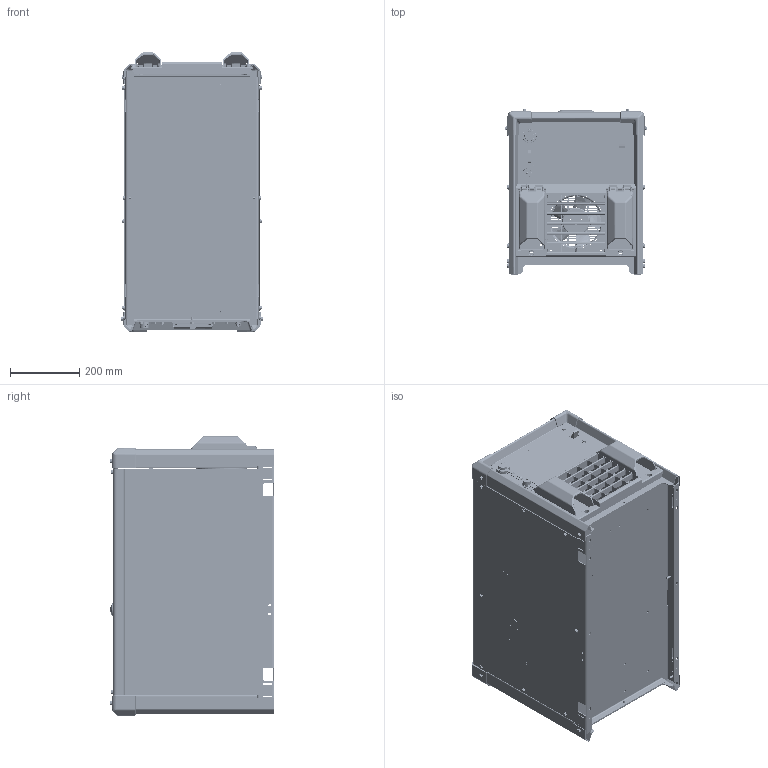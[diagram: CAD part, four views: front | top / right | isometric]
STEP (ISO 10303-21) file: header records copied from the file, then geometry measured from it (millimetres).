
FILE_DESCRIPTION (( 'STEP AP203' ), '1' );
FILE_NAME ('907863 Shell.STEP', '2024-08-13T14:41:44', ( '' ), ( '' ), 'SwSTEP 2.0', 'SolidWorks 2022', '' );
FILE_SCHEMA (( 'CONFIG_CONTROL_DESIGN' ));
Products named in the file (1): 907863 Shell
Bounding box: 407.82 x 476.65 x 807.44 mm (x, y, z)
Surface area: 3624640.3 mm2 (no closed solid volume)
Topology: 0 solids, 301 shells, 3840 faces, 16297 edges, 12129 vertices
Faces by surface type: plane 1974, cylinder 1375, bspline 247, cone 125, torus 99, sphere 20
Entity records: 187839 total; most frequent: CARTESIAN_POINT 59649, DIRECTION 25232, ORIENTED_EDGE 24036, EDGE_CURVE 16248, VERTEX_POINT 12128, VECTOR 8908, LINE 8908, AXIS2_PLACEMENT_3D 8162
